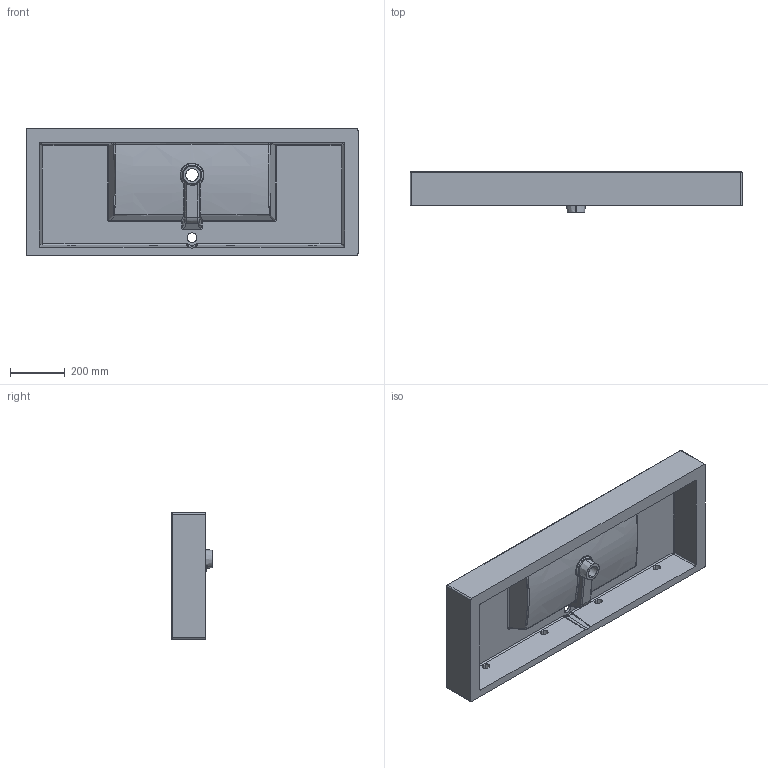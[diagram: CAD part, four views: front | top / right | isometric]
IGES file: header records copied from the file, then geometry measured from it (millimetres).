
Start section: SolidWorks IGES file using analytic representation for surfaces
Global section: file name: \\vmware-host\Shared Folders\Documenti\Lavoro\modifiche Tecla\3D-modifiche\TWENTY 121\PROJECT2017 120 Pdexsix.IGS; native system: SolidWorks 2017; preprocessor: SolidWorks 2017; author: silvia; date: 171109.163328; units: millimetre
Bounding box: 1210 x 150 x 460 mm (x, y, z)
Surface area: 1967976 mm2 (no closed solid volume)
Topology: 0 solids, 0 shells, 199 faces, 2477 edges, 2467 vertices
Faces by surface type: revolution 100, bspline 99
